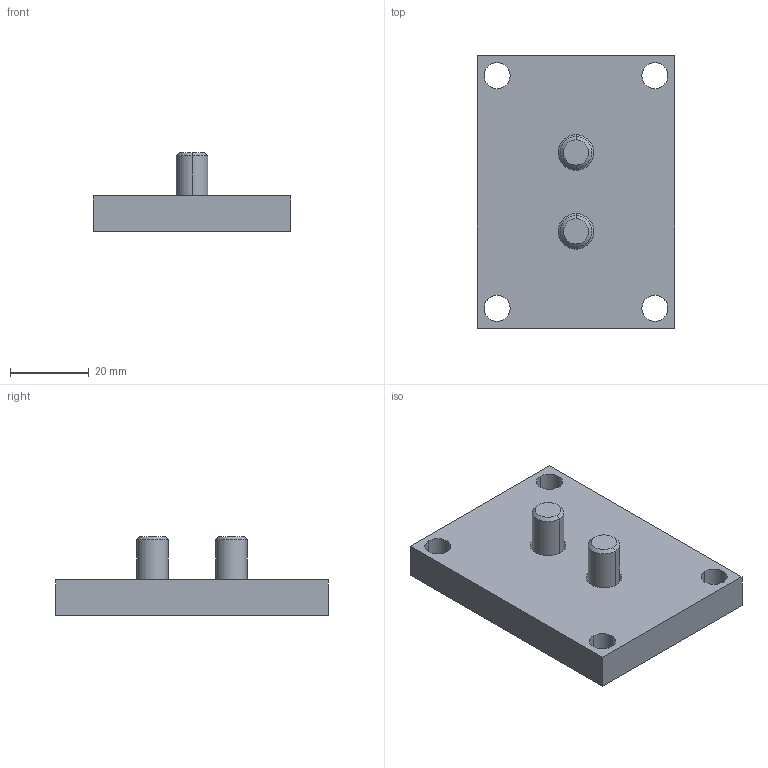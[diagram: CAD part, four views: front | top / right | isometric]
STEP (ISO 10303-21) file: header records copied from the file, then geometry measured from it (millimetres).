
FILE_DESCRIPTION(/* description */ (''),/* implementation_level */ '2;1');
FILE_NAME(/* name */ '3d_hm-50_04129_r00.stp',/* time_stamp */ '2011-01-10T14:14:42+09:00',/* author */ ('MISUMI'),/* organization */ (''),/* preprocessor_version */ 'ST-DEVELOPER v11',/* originating_system */ 'UGS - NX 5.0',/* authorisation */ '');
FILE_SCHEMA (('CONFIG_CONTROL_DESIGN'));
Length unit declared in the file: millimetre
Products named in the file (1): 3d_hm-50_04129_r00
Bounding box: 50 x 69 x 20 mm (x, y, z)
Volume: 30639 mm3; surface area: 11497.3 mm2
Topology: 3 solids, 3 shells, 52 faces, 120 edges, 76 vertices
Faces by surface type: plane 24, cylinder 16, cone 12
Entity records: 1578 total; most frequent: DIRECTION 270, CARTESIAN_POINT 249, ORIENTED_EDGE 240, EDGE_CURVE 120, AXIS2_PLACEMENT_3D 97, VERTEX_POINT 76, LINE 76, VECTOR 76
